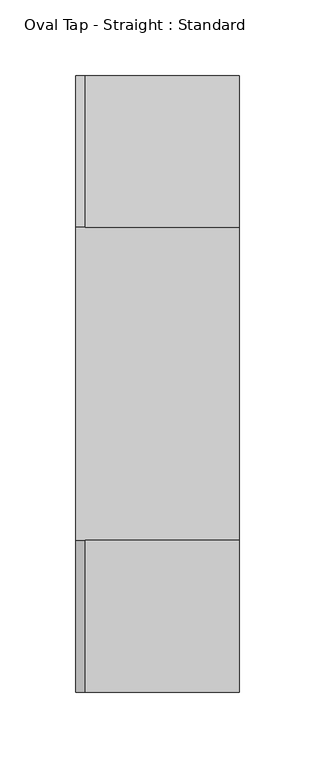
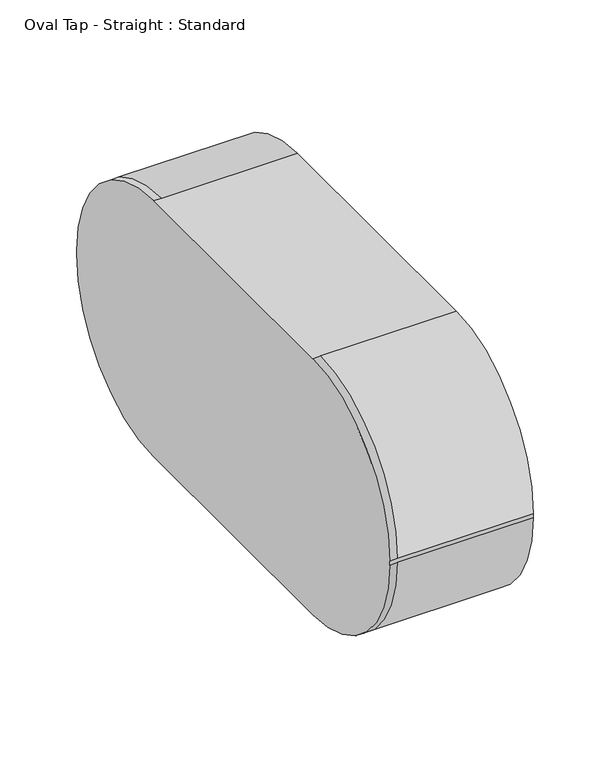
"""IFC4 building model written with IfcOpenShell, lengths in millimetres: duct fitting geometry, Oval Tap - Straight : Standard."""

from ifc_helpers import new_model, si_unit, frame, origin, place, context, project, spatial, circle_curve, source, transform, mapped, element, save
from ifc_brep_helpers import plane_surface, cylinder_surface, advanced_brep


def oval_tap_straight_standard_ffc37641(model_context):
    return source(origin(), model_context, "Body", "AdvancedBrep", [
        advanced_brep(
        [(101.6, 103.1875, 101.6), (101.6, -103.1875, 101.6), (101.6, -203.2, 1.5875), (101.6, -203.2, -1.5875), (101.6, -103.1875, -101.6), (101.6, 103.1875, -101.6), (101.6, 203.2, -1.5875), (101.6, 203.2, 1.5875), (0.0, 203.2, 1.5875), (0.0, 103.1875, 101.6), (0.0, 203.2, -1.5875), (-6.096, 203.2, -1.5875), (-6.096, 203.2, 1.5875), (0.0, 103.1875, -101.6), (0.0, -103.1875, -101.6), (-6.096, -103.1875, -101.6), (-6.096, 103.1875, -101.6), (0.0, -203.2, -1.5875), (0.0, -203.2, 1.5875), (-6.096, -203.2, 1.5875), (-6.096, -203.2, -1.5875), (0.0, -103.1875, 101.6), (-6.096, 103.1875, 101.6), (-6.096, -103.1875, 101.6)],
        [
            (0, 1),
            (1, 2, circle_curve(frame((101.6, -103.1875, 1.5875), z_axis=(1.0, 0.0, 0.0), x_axis=(0.0, 0.0, 1.0)), 100.0125)),
            (2, 3),
            (3, 4, circle_curve(frame((101.6, -103.1875, -1.5875), z_axis=(1.0, 0.0, 0.0), x_axis=(0.0, -1.0, 0.0)), 100.0125)),
            (4, 5),
            (5, 6, circle_curve(frame((101.6, 103.1875, -1.5875), z_axis=(1.0, 0.0, 0.0), x_axis=(0.0, 0.0, -1.0)), 100.0125)),
            (6, 7),
            (7, 0, circle_curve(frame((101.6, 103.1875, 1.5875), z_axis=(1.0, 0.0, 0.0), x_axis=(0.0, 1.0, 0.0)), 100.0125)),
            (7, 8),
            (8, 9, circle_curve(frame((0.0, 103.1875, 1.5875), z_axis=(1.0, 0.0, 0.0), x_axis=(0.0, 1.0, 0.0)), 100.0125)),
            (9, 0),
            (6, 10),
            (10, 11),
            (11, 12),
            (12, 8),
            (5, 13),
            (13, 10, circle_curve(frame((0.0, 103.1875, -1.5875), z_axis=(1.0, 0.0, 0.0), x_axis=(0.0, 0.0, -1.0)), 100.0125)),
            (4, 14),
            (14, 15),
            (15, 16),
            (16, 13),
            (3, 17),
            (17, 14, circle_curve(frame((0.0, -103.1875, -1.5875), z_axis=(1.0, 0.0, 0.0), x_axis=(0.0, -1.0, 0.0)), 100.0125)),
            (2, 18),
            (18, 19),
            (19, 20),
            (20, 17),
            (1, 21),
            (21, 18, circle_curve(frame((0.0, -103.1875, 1.5875), z_axis=(1.0, 0.0, 0.0), x_axis=(0.0, 0.0, 1.0)), 100.0125)),
            (9, 22),
            (22, 23),
            (23, 21),
            (22, 12, circle_curve(frame((-6.096, 103.1875, 1.5875), z_axis=(-1.0, 0.0, 0.0), x_axis=(0.0, -1.0, 0.0)), 100.0125)),
            (11, 16, circle_curve(frame((-6.096, 103.1875, -1.5875), z_axis=(-1.0, 0.0, 0.0), x_axis=(0.0, -1.0, 0.0)), 100.0125)),
            (15, 20, circle_curve(frame((-6.096, -103.1875, -1.5875), z_axis=(-1.0, 0.0, 0.0), x_axis=(0.0, -1.0, 0.0)), 100.0125)),
            (19, 23, circle_curve(frame((-6.096, -103.1875, 1.5875), z_axis=(-1.0, 0.0, 0.0), x_axis=(0.0, -1.0, 0.0)), 100.0125)),
        ],
        [
            plane_surface(frame((101.6, 0.0, 0.0), z_axis=(1.0, 0.0, 0.0), x_axis=(0.0, 1.0, 0.0))),
            cylinder_surface(frame((0.0, 103.1875, 1.5875), z_axis=(1.0, 0.0, 0.0), x_axis=(0.0, 1.0, 0.0)), 100.0125),
            plane_surface(frame((0.0, 203.2, 0.0), z_axis=(0.0, 1.0, 0.0), x_axis=(0.0, 0.0, -1.0))),
            cylinder_surface(frame((0.0, 103.1875, -1.5875), z_axis=(1.0, 0.0, 0.0), x_axis=(0.0, 0.0, -1.0)), 100.0125),
            plane_surface(frame((0.0, 0.0, -101.6), z_axis=(0.0, 0.0, -1.0), x_axis=(0.0, -1.0, 0.0))),
            cylinder_surface(frame((0.0, -103.1875, -1.5875), z_axis=(1.0, 0.0, 0.0), x_axis=(0.0, -1.0, 0.0)), 100.0125),
            plane_surface(frame((0.0, -203.2, 0.0), z_axis=(0.0, -1.0, 0.0), x_axis=(0.0, 0.0, 1.0))),
            cylinder_surface(frame((0.0, -103.1875, 1.5875), z_axis=(1.0, 0.0, 0.0), x_axis=(0.0, 0.0, 1.0)), 100.0125),
            plane_surface(frame((0.0, 0.0, 101.6), z_axis=(0.0, 0.0, 1.0), x_axis=(0.0, 1.0, 0.0))),
            plane_surface(frame((-6.096, 0.0, 0.0), z_axis=(-1.0, 0.0, 0.0), x_axis=(0.0, 0.0, 1.0))),
            cylinder_surface(frame((-6.096, -103.1875, 1.5875), z_axis=(-1.0, 0.0, 0.0), x_axis=(0.0, -1.0, 0.0)), 100.0125),
            cylinder_surface(frame((-6.096, -103.1875, -1.5875), z_axis=(-1.0, 0.0, 0.0), x_axis=(0.0, -1.0, 0.0)), 100.0125),
            cylinder_surface(frame((-6.096, 103.1875, -1.5875), z_axis=(-1.0, 0.0, 0.0), x_axis=(0.0, -1.0, 0.0)), 100.0125),
            cylinder_surface(frame((-6.096, 103.1875, 1.5875), z_axis=(-1.0, 0.0, 0.0), x_axis=(0.0, -1.0, 0.0)), 100.0125),
        ],
        [
            (0, [[1, 2, 3, 4, 5, 6, 7, 8]]),
            (1, [[9, 10, 11, -8]]),
            (2, [[12, 13, 14, 15, -9, -7]]),
            (3, [[16, 17, -12, -6]]),
            (4, [[18, 19, 20, 21, -16, -5]]),
            (5, [[22, 23, -18, -4]]),
            (6, [[24, 25, 26, 27, -22, -3]]),
            (7, [[28, 29, -24, -2]]),
            (8, [[-11, 30, 31, 32, -28, -1]]),
            (9, [[33, -14, 34, -20, 35, -26, 36, -31]]),
            (10, [[-25, -29, -32, -36]]),
            (11, [[-19, -23, -27, -35]]),
            (12, [[-13, -17, -21, -34]]),
            (13, [[-30, -10, -15, -33]]),
        ],
    ),
    ])


if __name__ == "__main__":
    model = new_model("IFC4")
    model_context = context("Model", 3, world=origin())
    ifc_project = project(units=[si_unit("LENGTHUNIT", "METRE", prefix="MILLI")], contexts=[model_context])
    site = spatial("IfcSite", under=ifc_project)
    building = spatial("IfcBuilding", under=site)
    placement = place(None, origin())
    oval_tap_straight_standard_shape = oval_tap_straight_standard_ffc37641(model_context)
    element("IfcDuctFitting", 1, ObjectType="Oval Tap - Straight : Standard", at=placement, inside=building, context=model_context, shape_type="MappedRepresentation", body=[
        mapped(oval_tap_straight_standard_shape, transform((0.0, 0.0, 0.0), x_axis=(1.0, 0.0, 0.0), y_axis=(0.0, 1.0, 0.0), z_axis=(0.0, 0.0, 1.0))),
    ])
    save(model, "model.ifc")
